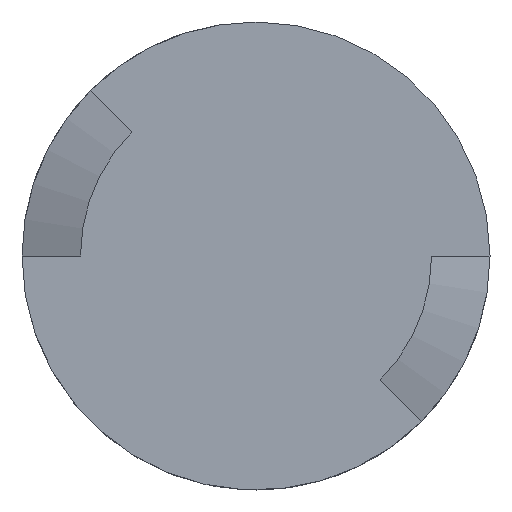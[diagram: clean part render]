
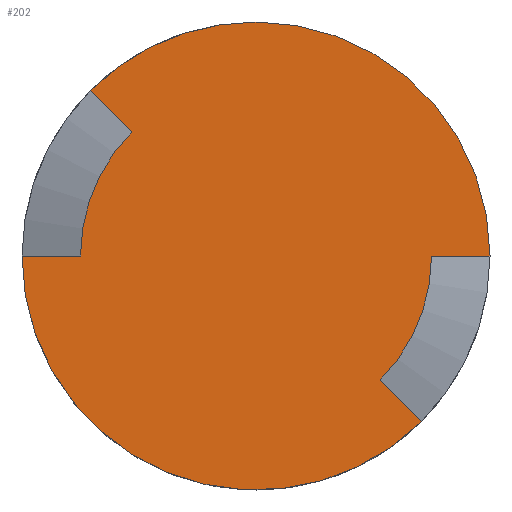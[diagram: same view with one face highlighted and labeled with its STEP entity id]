
A CAD part, front view. The second image highlights one B-rep face of the part: STEP entity #202.
In plain terms, the highlighted planar face has unit normal (0, -1, 0).
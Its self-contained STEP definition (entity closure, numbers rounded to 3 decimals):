
#20=CIRCLE('',#231,6.);
#21=CIRCLE('',#232,8.);
#22=CIRCLE('',#233,6.);
#23=CIRCLE('',#234,8.);
#33=ORIENTED_EDGE('',*,*,#83,.F.);
#34=ORIENTED_EDGE('',*,*,#84,.T.);
#35=ORIENTED_EDGE('',*,*,#85,.T.);
#36=ORIENTED_EDGE('',*,*,#86,.F.);
#37=ORIENTED_EDGE('',*,*,#87,.F.);
#38=ORIENTED_EDGE('',*,*,#88,.T.);
#39=ORIENTED_EDGE('',*,*,#89,.T.);
#40=ORIENTED_EDGE('',*,*,#90,.F.);
#83=EDGE_CURVE('',#108,#109,#127,.T.);
#84=EDGE_CURVE('',#108,#110,#20,.T.);
#85=EDGE_CURVE('',#110,#111,#128,.T.);
#86=EDGE_CURVE('',#112,#111,#21,.T.);
#87=EDGE_CURVE('',#113,#112,#129,.T.);
#88=EDGE_CURVE('',#113,#114,#22,.T.);
#89=EDGE_CURVE('',#114,#115,#130,.T.);
#90=EDGE_CURVE('',#109,#115,#23,.T.);
#108=VERTEX_POINT('',#331);
#109=VERTEX_POINT('',#332);
#110=VERTEX_POINT('',#334);
#111=VERTEX_POINT('',#336);
#112=VERTEX_POINT('',#338);
#113=VERTEX_POINT('',#340);
#114=VERTEX_POINT('',#342);
#115=VERTEX_POINT('',#344);
#127=LINE('',#330,#139);
#128=LINE('',#335,#140);
#129=LINE('',#339,#141);
#130=LINE('',#343,#142);
#139=VECTOR('',#262,1000.);
#140=VECTOR('',#265,1000.);
#141=VECTOR('',#268,1000.);
#142=VECTOR('',#271,1000.);
#151=EDGE_LOOP('',(#33,#34,#35,#36,#37,#38,#39,#40));
#173=FACE_BOUND('',#151,.T.);
#195=PLANE('',#230);
#202=ADVANCED_FACE('',(#173),#195,.F.);
#230=AXIS2_PLACEMENT_3D('',#329,#260,#261);
#231=AXIS2_PLACEMENT_3D('',#333,#263,#264);
#232=AXIS2_PLACEMENT_3D('',#337,#266,#267);
#233=AXIS2_PLACEMENT_3D('',#341,#269,#270);
#234=AXIS2_PLACEMENT_3D('',#345,#272,#273);
#260=DIRECTION('',(0.,1.,0.));
#261=DIRECTION('',(0.,0.,1.));
#262=DIRECTION('',(-0.707,0.,0.707));
#263=DIRECTION('',(0.,-1.,0.));
#264=DIRECTION('',(0.,0.,1.));
#265=DIRECTION('',(-1.,0.,0.));
#266=DIRECTION('',(0.,1.,0.));
#267=DIRECTION('',(0.,0.,1.));
#268=DIRECTION('',(0.707,0.,-0.707));
#269=DIRECTION('',(0.,-1.,0.));
#270=DIRECTION('',(0.,0.,-1.));
#271=DIRECTION('',(1.,0.,0.));
#272=DIRECTION('',(0.,1.,0.));
#273=DIRECTION('',(0.,0.,1.));
#329=CARTESIAN_POINT('',(6.,1.,0.));
#330=CARTESIAN_POINT('',(-4.243,1.,4.243));
#331=CARTESIAN_POINT('',(-4.243,1.,4.243));
#332=CARTESIAN_POINT('',(-5.657,1.,5.657));
#333=CARTESIAN_POINT('',(0.,1.,0.));
#334=CARTESIAN_POINT('',(-6.,1.,0.));
#335=CARTESIAN_POINT('',(-6.,1.,0.));
#336=CARTESIAN_POINT('',(-8.,1.,0.));
#337=CARTESIAN_POINT('',(0.,1.,0.));
#338=CARTESIAN_POINT('',(5.657,1.,-5.657));
#339=CARTESIAN_POINT('',(4.243,1.,-4.243));
#340=CARTESIAN_POINT('',(4.243,1.,-4.243));
#341=CARTESIAN_POINT('',(0.,1.,0.));
#342=CARTESIAN_POINT('',(6.,1.,0.));
#343=CARTESIAN_POINT('',(6.,1.,0.));
#344=CARTESIAN_POINT('',(8.,1.,0.));
#345=CARTESIAN_POINT('',(0.,1.,0.));
